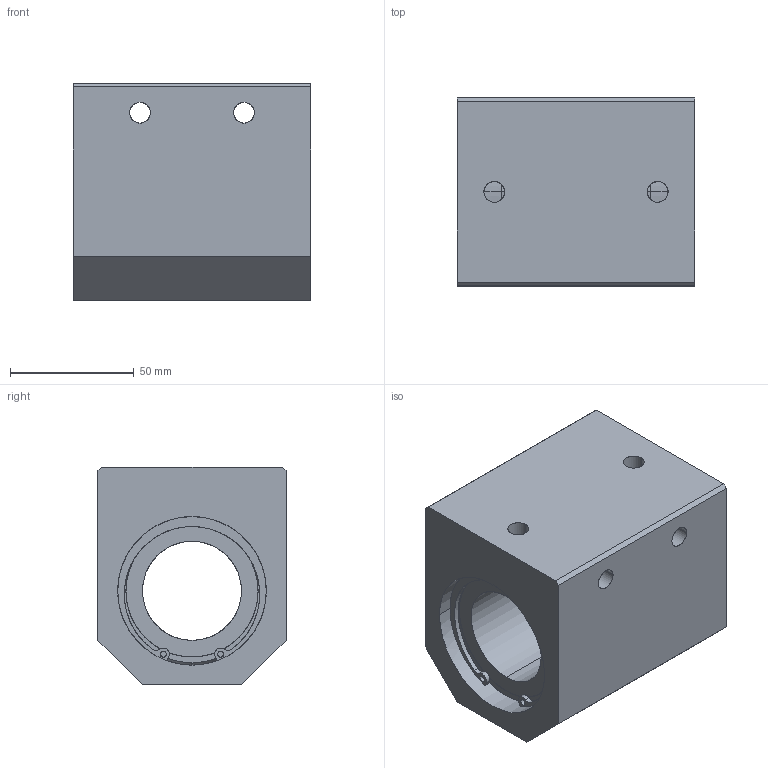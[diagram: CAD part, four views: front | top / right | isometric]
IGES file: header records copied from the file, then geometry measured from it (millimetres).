
Start section: SolidWorks IGES file using analytic representation for surfaces
Global section: file name: C:\Users\tsuch\OneDrive\デスクトップ\CH40.IGS; native system: SolidWorks 2019; preprocessor: SolidWorks 2019; author: tsuch; date: 210624.112108; units: millimetre
Bounding box: 96 x 76 x 88 mm (x, y, z)
Surface area: 62581.4 mm2 (no closed solid volume)
Topology: 0 solids, 0 shells, 102 faces, 2751 edges, 2751 vertices
Faces by surface type: revolution 56, bspline 46
